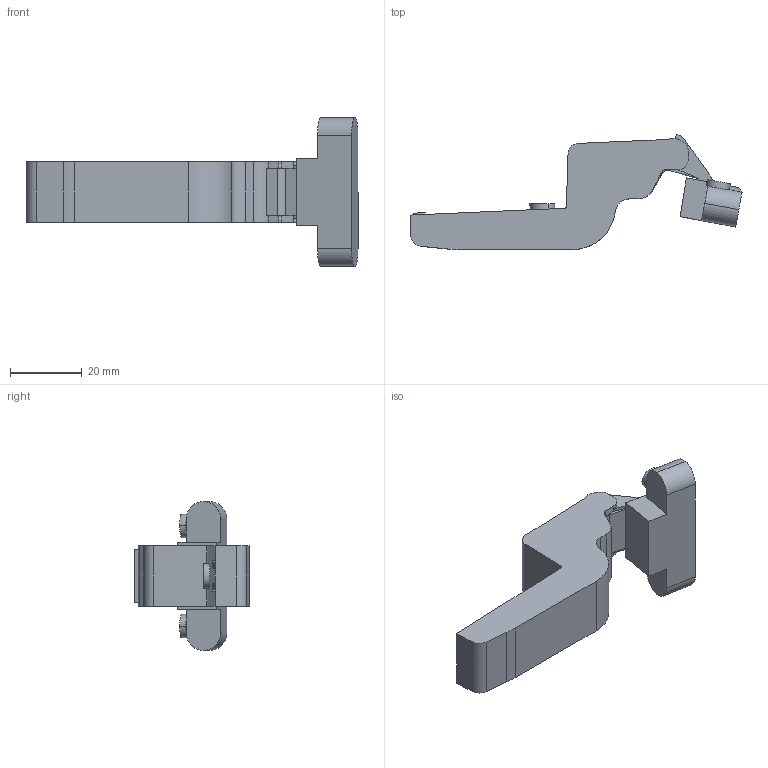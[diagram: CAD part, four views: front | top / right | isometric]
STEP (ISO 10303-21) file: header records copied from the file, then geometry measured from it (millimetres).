
FILE_DESCRIPTION (( 'STEP AP203' ), '1' );
FILE_NAME ('C82C278F-DTC 3D open.STEP', '2024-09-09T05:41:21', ( '微软用户' ), ( '微软中国' ), 'SwSTEP 2.0', 'SolidWorks 2021', '' );
FILE_SCHEMA (( 'CONFIG_CONTROL_DESIGN' ));
Length unit declared in the file: millimetre
Products named in the file (1): C82C278F-DTC 3D open
Bounding box: 92.85 x 32.22 x 41.6 mm (x, y, z)
Volume: 24534.9 mm3; surface area: 7985.5 mm2
Topology: 1 solids, 1 shells, 171 faces, 458 edges, 304 vertices
Faces by surface type: plane 84, bspline 49, cylinder 37, torus 1
Entity records: 8308 total; most frequent: CARTESIAN_POINT 4218, ORIENTED_EDGE 916, DIRECTION 686, EDGE_CURVE 458, VERTEX_POINT 304, VECTOR 266, LINE 266, AXIS2_PLACEMENT_3D 210
